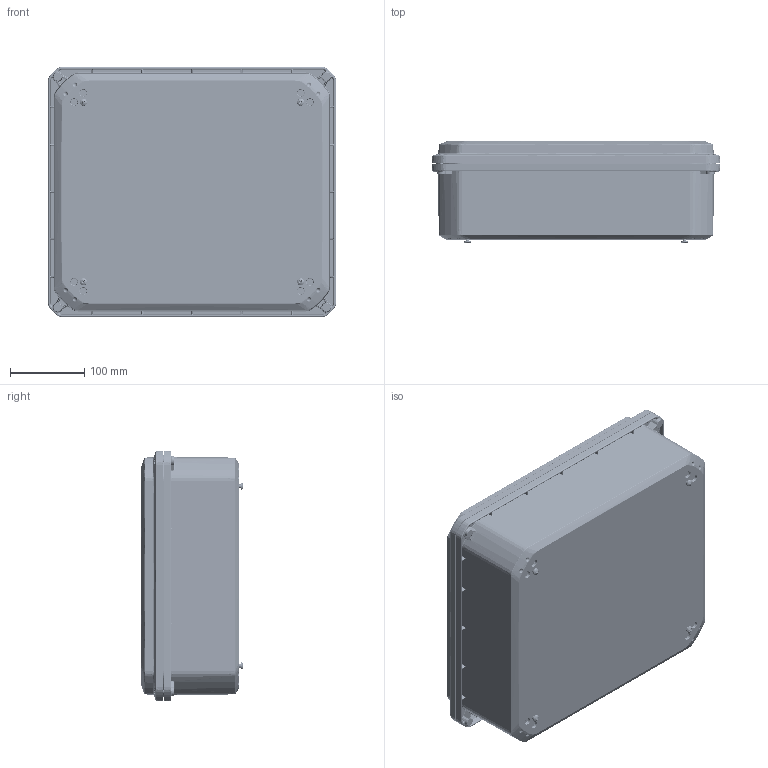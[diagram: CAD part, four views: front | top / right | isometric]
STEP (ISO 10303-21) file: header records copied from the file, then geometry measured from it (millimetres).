
FILE_DESCRIPTION (( 'STEP AP214' ), '1' );
FILE_NAME ('ZQ-141204-93.STEP', '2024-10-25T19:42:20', ( '' ), ( '' ), 'SwSTEP 2.0', 'SolidWorks 2024', '' );
FILE_SCHEMA (( 'AUTOMOTIVE_DESIGN' ));
Length unit declared in the file: inch
Products named in the file (10): SCREWS-049_SCREWS-049; Z_-14121CG_ZQ-14121CG-02; ZQ-141204-93; Z_-14121C_ZQ-14121C-02; INSERTS-4; Z_-14124BI_ZQ-14124BI-01; LABEL-104; Z_-14124B_ZQ-14124B-01; SCREWS-046_SCREWS-046; ZH-1412G
Assembly tree (26 placements, depth 3):
  ZQ-141204-93
    Z_-14124BI_ZQ-14124BI-01
      Z_-14124B_ZQ-14124B-01
      INSERTS-4  x12
      LABEL-104
    Z_-14121CG_ZQ-14121CG-02
      Z_-14121C_ZQ-14121C-02
      ZH-1412G
    SCREWS-046_SCREWS-046  x4
    SCREWS-049_SCREWS-049  x4
Bounding box: 387.1 x 137.95 x 336.3 mm (x, y, z)
Volume: 2049869.8 mm3; surface area: 964658.4 mm2
Topology: 24 solids, 24 shells, 5750 faces, 14114 edges, 8426 vertices
Faces by surface type: bspline 1640, plane 1194, cone 1184, cylinder 980, torus 720, sphere 32
Entity records: 210460 total; most frequent: CARTESIAN_POINT 123051, ORIENTED_EDGE 19978, DIRECTION 16331, EDGE_CURVE 9989, AXIS2_PLACEMENT_3D 7100, VERTEX_POINT 5853, EDGE_LOOP 4450, CIRCLE 4382
